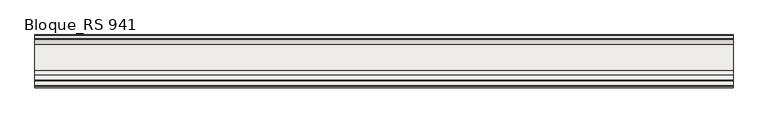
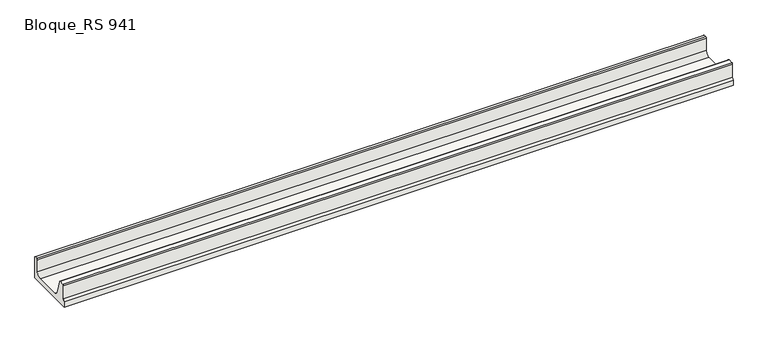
"""IFC4 building model written with IfcOpenShell, lengths in millimetres: slab geometry, ROSA GRES_RS 941 : Bloque_RS 941."""

import ifcopenshell
import ifcopenshell.guid

model = None  # the IFC model being written
_history = None  # IfcOwnerHistory: only IFC2X3 demands one
_inside = {}  # id of a spatial element -> (the spatial element, [elements in it])
_under = {}  # id of a project, library or spatial element -> (it, [spatial elements below it])
_declared = {}  # id of a project -> (the project, [libraries it declares])
_typed = {}  # id of a type object -> (the type object, [elements of that type])
_made_of = {}  # id of a material, layer set ... -> (it, [elements and type objects made of it])


def new_model(schema):
    """Start an empty IFC model of exactly this schema.

    Asked for "IFC4X3", IfcOpenShell would pick the latest addendum, in which some entities
    have other attributes; the version numbers below select the first issue.
    IFC2X3 requires an IfcOwnerHistory on every rooted entity: one is made here for all.
    """
    global model, _history
    if schema == "IFC4X3":
        model = ifcopenshell.file(schema_version=(4, 3, 0, 0))
    else:
        model = ifcopenshell.file(schema=schema)
    _inside.clear()
    _under.clear()
    _declared.clear()
    _typed.clear()
    _made_of.clear()
    _history = None
    if model.schema == "IFC2X3":
        org = make("IfcOrganization", Name="unknown")
        user = make(
            "IfcPersonAndOrganization",
            ThePerson=make("IfcPerson", FamilyName="unknown"),
            TheOrganization=org,
        )
        app = make(
            "IfcApplication",
            ApplicationDeveloper=org,
            Version="unknown",
            ApplicationFullName="unknown",
            ApplicationIdentifier="unknown",
        )
        _history = make(
            "IfcOwnerHistory",
            OwningUser=user,
            OwningApplication=app,
            ChangeAction="ADDED",
            CreationDate=0,
        )
    return model


def make(cls, **values):
    """One entity of the class cls with the attributes given. An attribute that is None is left unset."""
    return model.create_entity(
        cls, **{name: value for name, value in values.items() if value is not None}
    )


def rooted(cls, **values):
    """An entity with a GlobalId (a new one), such as an element, a storey or a relation."""
    return make(cls, GlobalId=ifcopenshell.guid.new(), OwnerHistory=_history, **values)


def si_unit(unit_type, name, prefix=None):
    """IfcSIUnit, for example si_unit("LENGTHUNIT", "METRE", prefix="MILLI")."""
    return make("IfcSIUnit", UnitType=unit_type, Prefix=prefix, Name=name)


def assignment(units):
    """IfcUnitAssignment: the units of a project."""
    return None if units is None else make("IfcUnitAssignment", Units=units)


def point(xyz):
    """IfcCartesianPoint."""
    return None if xyz is None else make("IfcCartesianPoint", Coordinates=xyz)


def direction(xyz):
    """IfcDirection."""
    return None if xyz is None else make("IfcDirection", DirectionRatios=xyz)


def frame(location, z_axis=None, x_axis=None):
    """IfcAxis2Placement3D, a coordinate frame: its origin and axes. An axis left out is left unset."""
    return make(
        "IfcAxis2Placement3D",
        Location=point(location),
        Axis=direction(z_axis),
        RefDirection=direction(x_axis),
    )


def frame_2d(location, x_axis=None):
    """IfcAxis2Placement2D, a coordinate frame in the plane: its origin and x axis."""
    return make(
        "IfcAxis2Placement2D", Location=point(location), RefDirection=direction(x_axis)
    )


def origin():
    """The frame at (0, 0, 0) with its axes left unset."""
    return frame((0.0, 0.0, 0.0))


def place(relative_to, where):
    """IfcLocalPlacement: puts the frame where relative to a parent placement (None: the world)."""
    return make(
        "IfcLocalPlacement", PlacementRelTo=relative_to, RelativePlacement=where
    )


def context(
    kind, dimensions, precision=None, world=None, true_north=None, identifier=None
):
    """IfcGeometricRepresentationContext, for example the 3D "Model" context."""
    return make(
        "IfcGeometricRepresentationContext",
        ContextIdentifier=identifier,
        ContextType=kind,
        CoordinateSpaceDimension=dimensions,
        Precision=precision,
        WorldCoordinateSystem=world,
        TrueNorth=true_north,
    )


def project(units=None, contexts=None):
    """IfcProject with its units and contexts."""
    return rooted(
        "IfcProject",
        Name="project",
        RepresentationContexts=contexts,
        UnitsInContext=assignment(units),
    )


def spatial(cls, under=None, at=None, **own):
    """A site, building, storey or space (cls), placed at a placement, below another one or the project."""
    s = rooted(cls, ObjectPlacement=at, **own)
    if under is not None:
        _under.setdefault(under.id(), (under, []))[1].append(s)
    return s


def polyline(points):
    """IfcPolyline through the points."""
    return make("IfcPolyline", Points=[point(p) for p in points])


def circle_curve(where, radius):
    """IfcCircle in the frame where."""
    return make("IfcCircle", Position=where, Radius=radius)


def trimmed(basis, trim1, trim2, sense, master):
    """IfcTrimmedCurve: the piece of a basis curve between two trims."""
    return make(
        "IfcTrimmedCurve",
        BasisCurve=basis,
        Trim1=trim1,
        Trim2=trim2,
        SenseAgreement=sense,
        MasterRepresentation=master,
    )


def segment(curve, same_sense, transition):
    """IfcCompositeCurveSegment."""
    return make(
        "IfcCompositeCurveSegment",
        Transition=transition,
        SameSense=same_sense,
        ParentCurve=curve,
    )


def composite_curve(segments, self_intersect=None):
    """IfcCompositeCurve: segments joined end to end."""
    return make("IfcCompositeCurve", Segments=segments, SelfIntersect=self_intersect)


def outline(outer, holes=None, kind="AREA"):
    """IfcArbitraryClosedProfileDef: a profile drawn as a closed curve; with holes, ...WithVoids."""
    if holes is None:
        return make("IfcArbitraryClosedProfileDef", ProfileType=kind, OuterCurve=outer)
    return make(
        "IfcArbitraryProfileDefWithVoids",
        ProfileType=kind,
        OuterCurve=outer,
        InnerCurves=holes,
    )


def extrude(swept, where, along, depth):
    """IfcExtrudedAreaSolid: the profile swept, set in the frame where, extruded along a direction by depth."""
    return make(
        "IfcExtrudedAreaSolid",
        SweptArea=swept,
        Position=where,
        ExtrudedDirection=direction(along),
        Depth=depth,
    )


def shape(context_of_items, identifier, shape_type, items):
    """IfcShapeRepresentation: the items that make up one representation, for example the "Body"."""
    return make(
        "IfcShapeRepresentation",
        ContextOfItems=context_of_items,
        RepresentationIdentifier=identifier,
        RepresentationType=shape_type,
        Items=items,
    )


def source(mapping_origin, context_of_items, identifier, shape_type, items):
    """IfcRepresentationMap: a shape defined once, which mapped items show again and again."""
    return make(
        "IfcRepresentationMap",
        MappingOrigin=mapping_origin,
        MappedRepresentation=shape(context_of_items, identifier, shape_type, items),
    )


def transform(
    local_origin,
    x_axis=None,
    y_axis=None,
    z_axis=None,
    scale=None,
    scale2=None,
    scale3=None,
    uniform=True,
):
    """IfcCartesianTransformationOperator3D, or its non-uniform kind. x_axis, y_axis, z_axis: its Axis1, 2, 3."""
    if uniform:
        return make(
            "IfcCartesianTransformationOperator3D",
            Axis1=direction(x_axis),
            Axis2=direction(y_axis),
            LocalOrigin=point(local_origin),
            Scale=scale,
            Axis3=direction(z_axis),
        )
    return make(
        "IfcCartesianTransformationOperator3DnonUniform",
        Axis1=direction(x_axis),
        Axis2=direction(y_axis),
        LocalOrigin=point(local_origin),
        Scale=scale,
        Axis3=direction(z_axis),
        Scale2=scale2,
        Scale3=scale3,
    )


def mapped(mapping_source, mapping_target):
    """IfcMappedItem: shows the shape of a source again, moved by a transform."""
    return make(
        "IfcMappedItem", MappingSource=mapping_source, MappingTarget=mapping_target
    )


def made_of(thing, what):
    """Note that an element or type object is made of a material, layer set ...; save() writes the relation."""
    if what is not None:
        _made_of.setdefault(what.id(), (what, []))[1].append(thing)
    return thing


def element(
    cls,
    number,
    at=None,
    inside=None,
    cuts=None,
    type_object=None,
    material=None,
    context=None,
    identifier="Body",
    shape_type=None,
    held_by="IfcProductDefinitionShape",
    body=None,
    shapes=None,
    **own,
):
    """One element of the class cls, such as IfcWall. Its Tag is "e" and its number.

    at: its placement. inside: the storey or other place that contains it. cuts: it is an
    opening in that element (IfcRelVoidsElement). A single representation is given by context,
    identifier, shape_type and body (its items); several are given by shapes. held_by: the class
    of the entity that holds the representations. save() writes the other relations.
    """
    e = rooted(cls, Tag="e%d" % number, ObjectPlacement=at, **own)
    if body is not None:
        shapes = [shape(context, identifier, shape_type, body)]
    if shapes is not None:
        e.Representation = make(held_by, Representations=shapes)
    if inside is not None:
        _inside.setdefault(inside.id(), (inside, []))[1].append(e)
    if cuts is not None:
        rooted(
            "IfcRelVoidsElement", RelatingBuildingElement=cuts, RelatedOpeningElement=e
        )
    if type_object is not None:
        _typed.setdefault(type_object.id(), (type_object, []))[1].append(e)
    return made_of(e, material)


def aggregate(whole, parts):
    """IfcRelAggregates: a whole, such as a stair, and the parts it consists of."""
    return rooted("IfcRelAggregates", RelatingObject=whole, RelatedObjects=parts)


def save(model, path):
    """Write the relations noted so far, then the file.

    IfcRelAggregates (storeys below a building ...), IfcRelContainedInSpatialStructure (elements
    in a storey), IfcRelDefinesByType, IfcRelAssociatesMaterial and IfcRelDeclares: one each for
    every whole, place, type object, material and project.
    """
    for whole, parts in _under.values():
        aggregate(whole, parts)
    for where, things in _inside.values():
        rooted(
            "IfcRelContainedInSpatialStructure",
            RelatedElements=things,
            RelatingStructure=where,
        )
    for kind, things in _typed.values():
        rooted("IfcRelDefinesByType", RelatedObjects=things, RelatingType=kind)
    for what, things in _made_of.values():
        rooted("IfcRelAssociatesMaterial", RelatedObjects=things, RelatingMaterial=what)
    for by, libraries in _declared.values():
        rooted("IfcRelDeclares", RelatingContext=by, RelatedDefinitions=libraries)
    model.write(path)


def bloque_rs_941_483e460d(model_context):
    return source(origin(), model_context, "Body", "SweptSolid", [
        extrude(outline(composite_curve([segment(trimmed(circle_curve(frame_2d((290.0102563, 121.0098178)), 4.9901918), [point((290.0004385, 126.0))], [point((295.0004385, 121.0))], False, "CARTESIAN"), True, "CONTINUOUS"), segment(polyline([(295.0004385, 121.0), (295.0004385, 0.0), (15.0, 0.0), (15.0, 32.0012714), (22.0000003, 44.0), (22.0000003, 121.0)]), True, "CONTINUOUS"), segment(trimmed(circle_curve(frame_2d((27.0000003, 121.0)), 5.0), [point((22.0000003, 121.0))], [point((27.0000003, 126.0))], False, "CARTESIAN"), True, "CONTINUOUS"), segment(polyline([(27.0000003, 126.0), (53.3276984, 126.0)]), True, "CONTINUOUS"), segment(trimmed(circle_curve(frame_2d((53.3404956, 121.0174239)), 4.9825925), [point((53.3276984, 126.0))], [point((58.098681, 122.4959025))], False, "CARTESIAN"), True, "CONTINUOUS"), segment(polyline([(58.098681, 122.4959025), (83.1743169, 42.5204875)]), True, "CONTINUOUS"), segment(trimmed(circle_curve(frame_2d((106.8431931, 49.7467022)), 24.7474015), [point((83.1743169, 42.5204875))], [point((107.0292302, 25.0))], True, "CARTESIAN"), True, "CONTINUOUS"), segment(polyline([(107.0292302, 25.0), (245.9504385, 25.0)]), True, "CONTINUOUS"), segment(trimmed(circle_curve(frame_2d((246.0603718, 49.9398968)), 24.9401391), [point((245.9504385, 25.0))], [point((271.0004385, 50.0))], True, "CARTESIAN"), True, "CONTINUOUS"), segment(polyline([(271.0004385, 50.0), (271.0004385, 121.221769)]), True, "CONTINUOUS"), segment(trimmed(circle_curve(frame_2d((275.9926846, 121.0029619)), 4.9970389), [point((271.0004385, 121.221769))], [point((275.9955179, 126.0))], False, "CARTESIAN"), True, "CONTINUOUS"), segment(polyline([(275.9955179, 126.0), (290.0004385, 126.0)]), True, "CONTINUOUS")], self_intersect=False)), frame((0.0, 0.0, 0.0), z_axis=(1.0, 0.0, 0.0), x_axis=(0.0, 1.0, 0.0)), (0.0, 0.0, 1.0), 3700.0),
    ])


if __name__ == "__main__":
    model = new_model("IFC4")
    model_context = context("Model", 3, world=origin())
    ifc_project = project(units=[si_unit("LENGTHUNIT", "METRE", prefix="MILLI")], contexts=[model_context])
    site = spatial("IfcSite", under=ifc_project)
    building = spatial("IfcBuilding", under=site)
    placement = place(None, origin())
    bloque_rs_941_shape = bloque_rs_941_483e460d(model_context)
    element("IfcSlab", 1, ObjectType="ROSA GRES_RS 941 : Bloque_RS 941", at=placement, inside=building, context=model_context, shape_type="MappedRepresentation", body=[
        mapped(bloque_rs_941_shape, transform((0.0, 0.0, 0.0), x_axis=(1.0, 0.0, 0.0), y_axis=(0.0, 1.0, 0.0), z_axis=(0.0, 0.0, 1.0))),
    ])
    save(model, "model.ifc")
